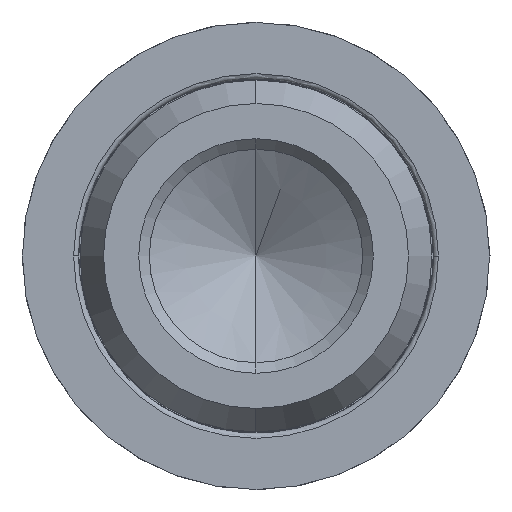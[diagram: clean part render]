
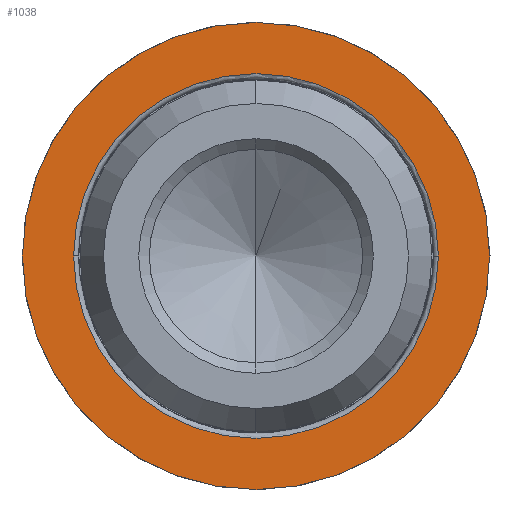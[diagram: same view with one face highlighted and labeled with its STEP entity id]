
A CAD part, front view. The second image highlights one B-rep face of the part: STEP entity #1038.
In plain terms, the highlighted planar face has unit normal (0, -1, 0).
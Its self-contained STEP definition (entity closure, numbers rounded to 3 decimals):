
#418 = CIRCLE ( 'NONE', #4387, 10.95 ) ;
#421 = CIRCLE ( 'NONE', #4389, 8.55 ) ;
#424 = CIRCLE ( 'NONE', #4390, 10.95 ) ;
#607 = CIRCLE ( 'NONE', #4485, 8.55 ) ;
#1038 = ADVANCED_FACE ( 'NONE', ( #3436, #3440 ), #2316, .T. ) ;
#2316 = PLANE ( 'NONE',  #5045 ) ;
#2323 = CARTESIAN_POINT ( 'NONE',  ( 0., 9.1, 0. ) ) ;
#2324 = DIRECTION ( 'NONE',  ( 0., -1., 0. ) ) ;
#2326 = DIRECTION ( 'NONE',  ( 1., 0., 0. ) ) ;
#2530 = VERTEX_POINT ( 'NONE', #8710 ) ;
#2660 = ORIENTED_EDGE ( 'NONE', *, *, #3381, .T. ) ;
#2661 = ORIENTED_EDGE ( 'NONE', *, *, #4605, .T. ) ;
#2662 = ORIENTED_EDGE ( 'NONE', *, *, #3382, .T. ) ;
#2663 = ORIENTED_EDGE ( 'NONE', *, *, #3377, .T. ) ;
#3377 = EDGE_CURVE ( 'NONE', #6344, #6418, #418, .T. ) ;
#3381 = EDGE_CURVE ( 'NONE', #2530, #8385, #421, .T. ) ;
#3382 = EDGE_CURVE ( 'NONE', #6418, #6344, #424, .T. ) ;
#3436 = FACE_BOUND ( 'NONE', #7899, .T. ) ;
#3440 = FACE_OUTER_BOUND ( 'NONE', #7910, .T. ) ;
#4137 = CARTESIAN_POINT ( 'NONE',  ( 10.95, 9.1, 0. ) ) ;
#4152 = CARTESIAN_POINT ( 'NONE',  ( -10.95, 9.1, 0. ) ) ;
#4167 = CARTESIAN_POINT ( 'NONE',  ( -8.55, 9.1, 0. ) ) ;
#4387 = AXIS2_PLACEMENT_3D ( 'NONE', #7638, #7639, #7640 ) ;
#4389 = AXIS2_PLACEMENT_3D ( 'NONE', #7645, #7646, #7647 ) ;
#4390 = AXIS2_PLACEMENT_3D ( 'NONE', #7648, #7649, #7650 ) ;
#4485 = AXIS2_PLACEMENT_3D ( 'NONE', #4934, #4935, #4936 ) ;
#4605 = EDGE_CURVE ( 'NONE', #8385, #2530, #607, .T. ) ;
#4934 = CARTESIAN_POINT ( 'NONE',  ( 0., 9.1, 0. ) ) ;
#4935 = DIRECTION ( 'NONE',  ( 0., 1., 0. ) ) ;
#4936 = DIRECTION ( 'NONE',  ( 1., 0., 0. ) ) ;
#5045 = AXIS2_PLACEMENT_3D ( 'NONE', #2323, #2324, #2326 ) ;
#6344 = VERTEX_POINT ( 'NONE', #4137 ) ;
#6418 = VERTEX_POINT ( 'NONE', #4152 ) ;
#7638 = CARTESIAN_POINT ( 'NONE',  ( 0., 9.1, 0. ) ) ;
#7639 = DIRECTION ( 'NONE',  ( 0., -1., 0. ) ) ;
#7640 = DIRECTION ( 'NONE',  ( 1., 0., 0. ) ) ;
#7645 = CARTESIAN_POINT ( 'NONE',  ( 0., 9.1, 0. ) ) ;
#7646 = DIRECTION ( 'NONE',  ( 0., 1., 0. ) ) ;
#7647 = DIRECTION ( 'NONE',  ( 1., 0., 0. ) ) ;
#7648 = CARTESIAN_POINT ( 'NONE',  ( 0., 9.1, 0. ) ) ;
#7649 = DIRECTION ( 'NONE',  ( 0., -1., 0. ) ) ;
#7650 = DIRECTION ( 'NONE',  ( 1., 0., 0. ) ) ;
#7899 = EDGE_LOOP ( 'NONE', ( #2660, #2661 ) ) ;
#7910 = EDGE_LOOP ( 'NONE', ( #2662, #2663 ) ) ;
#8385 = VERTEX_POINT ( 'NONE', #4167 ) ;
#8710 = CARTESIAN_POINT ( 'NONE',  ( 8.55, 9.1, 0. ) ) ;
